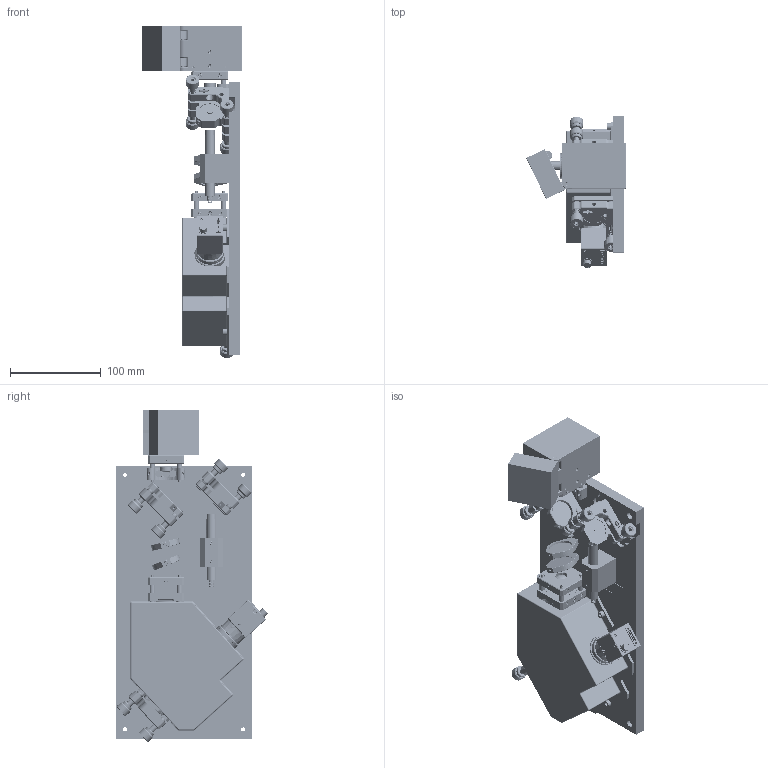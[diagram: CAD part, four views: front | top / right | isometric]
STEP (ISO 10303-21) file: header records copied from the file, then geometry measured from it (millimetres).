
FILE_DESCRIPTION (( 'STEP AP214' ), '1' );
FILE_NAME ('2020-06_0 - STARTER EDITION ASSY.STEP', '2020-05-15T11:35:33', ( '' ), ( '' ), 'SwSTEP 2.0', 'SolidWorks 2018', '' );
FILE_SCHEMA (( 'AUTOMOTIVE_DESIGN' ));
Length unit declared in the file: millimetre
Products named in the file (32): KM100; ER3; 2020-01_1 - CAMERA BRACKET; 2020-07_0 - OPTICAL DESIGN A; CP35M; CPS532; 2020-06_0 - STARTER EDITION ASSY; CP14_Web Assembly; ER1.5; DIN912 M4x10; 2020-08 - CUVETTE HOLDER BODY; 2020-09 - CUVETTE HOLDER CAP; 2020-04_0 - PERFORMANCE EDITION ASSY; SS4MN4; 2020-07_0 - OPTICAL DESIGN B; switch; tube; 2020-10_1 - CUVETTE HOLDER ASSY; 2020-02_1 - BASE PLATE; 2020-05 - LASER HOLDER; DIN912 M4x12; 2020-11 - CUVETTE HOLDER OPTICAL DESIGN; DIN912 M4x6; axis; FLIR-BFS-U3-200S6M-C; FMP1; MVL50M23; 2020-03_1 - COVER; CP02B; P10D; CRM1_M; KGM40
Assembly tree (61 placements, depth 4):
  2020-06_0 - STARTER EDITION ASSY
    2020-04_0 - PERFORMANCE EDITION ASSY
      2020-07_0 - OPTICAL DESIGN A
      2020-02_1 - BASE PLATE
      KM100  x3
      FMP1  x2
      CP14_Web Assembly
      CP35M  x3
      CRM1_M
      KGM40
      MVL50M23
      P10D
      CP02B  x2
      ER3  x4
      2020-10_1 - CUVETTE HOLDER ASSY
        2020-08 - CUVETTE HOLDER BODY
        2020-11 - CUVETTE HOLDER OPTICAL DESIGN
        2020-09 - CUVETTE HOLDER CAP
        axis
        tube
        switch
        SS4MN4  x2
      ER1.5  x2
      2020-07_0 - OPTICAL DESIGN B
      2020-03_1 - COVER
      FLIR-BFS-U3-200S6M-C
      2020-01_1 - CAMERA BRACKET
      DIN912 M4x6  x3
      DIN912 M4x10  x6
      DIN912 M4x12  x6
      SS4MN4  x3
    CPS532
    2020-05 - LASER HOLDER
    DIN912 M4x12  x2
    SS4MN4  x2
Bounding box: 109.3 x 167.4 x 365.21 mm (x, y, z)
Volume: 1072084.2 mm3; surface area: 396130.2 mm2
Topology: 191 solids, 198 shells, 10926 faces, 27963 edges, 18014 vertices
Faces by surface type: plane 5256, cylinder 2241, bspline 1860, cone 1402, torus 104, sphere 63
Entity records: 357656 total; most frequent: CARTESIAN_POINT 123846, ORIENTED_EDGE 37046, DIRECTION 30596, EDGE_CURVE 18550, VERTEX_POINT 12233, LINE 10234, VECTOR 10234, AXIS2_PLACEMENT_3D 10181
